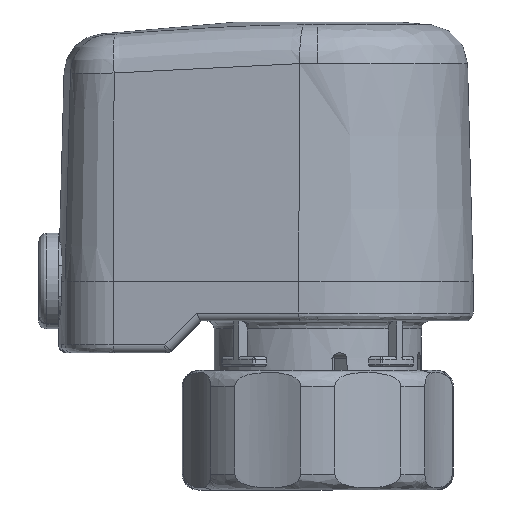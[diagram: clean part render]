
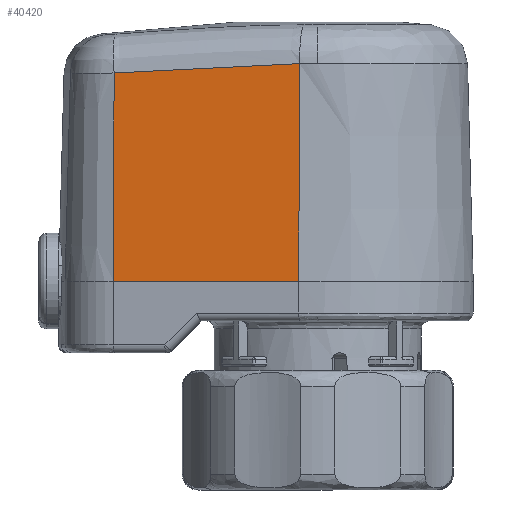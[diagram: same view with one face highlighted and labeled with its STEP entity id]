
A CAD part, front view. The second image highlights one B-rep face of the part: STEP entity #40420.
In plain terms, the highlighted planar face has unit normal (-0.122, -0.992, 0.026).
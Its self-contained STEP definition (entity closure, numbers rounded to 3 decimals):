
#155 = CARTESIAN_POINT ( 'NONE',  ( -21.999, -16.25, 31.371 ) ) ;
#1025 = CARTESIAN_POINT ( 'NONE',  ( -25.31, -15.849, 31.129 ) ) ;
#1587 = DIRECTION ( 'NONE',  ( -0.122, -0.992, 0.026 ) ) ;
#4474 = PLANE ( 'NONE',  #38636 ) ;
#4490 = CARTESIAN_POINT ( 'NONE',  ( -10.379, -17.657, 32.085 ) ) ;
#4756 = DIRECTION ( 'NONE',  ( 0.993, -0.122, 0. ) ) ;
#4774 = CARTESIAN_POINT ( 'NONE',  ( -3.978, -18.438, 32.272 ) ) ;
#5063 = CARTESIAN_POINT ( 'NONE',  ( -22.58, -16.179, 31.328 ) ) ;
#5348 = CARTESIAN_POINT ( 'NONE',  ( -6.889, -18.083, 32.214 ) ) ;
#5728 = EDGE_CURVE ( 'NONE', #38791, #54157, #33832, .T. ) ;
#7576 = CARTESIAN_POINT ( 'NONE',  ( -25.625, -16.5, 5. ) ) ;
#8040 = ORIENTED_EDGE ( 'NONE', *, *, #52574, .T. ) ;
#8062 = CARTESIAN_POINT ( 'NONE',  ( -25.541, -15.822, 31.107 ) ) ;
#8507 = CARTESIAN_POINT ( 'NONE',  ( -15.61, -17.023, 31.803 ) ) ;
#8788 = CARTESIAN_POINT ( 'NONE',  ( -16.191, -16.952, 31.767 ) ) ;
#9089 = CARTESIAN_POINT ( 'NONE',  ( -5.725, -18.225, 32.243 ) ) ;
#9353 = CARTESIAN_POINT ( 'NONE',  ( -24.322, -15.969, 31.2 ) ) ;
#11435 = CARTESIAN_POINT ( 'NONE',  ( -2.289, -18.646, 32.28 ) ) ;
#12793 = CARTESIAN_POINT ( 'NONE',  ( -10.961, -17.587, 32.058 ) ) ;
#13070 = CARTESIAN_POINT ( 'NONE',  ( -24.902, -15.899, 31.154 ) ) ;
#13343 = CARTESIAN_POINT ( 'NONE',  ( -25.522, -15.824, 31.108 ) ) ;
#13922 = CARTESIAN_POINT ( 'NONE',  ( -18.515, -16.671, 31.615 ) ) ;
#14473 = CARTESIAN_POINT ( 'NONE',  ( -2.376, -19.355, 5. ) ) ;
#15044 = DIRECTION ( 'NONE',  ( -0.003, -0.026, -1. ) ) ;
#15240 = ORIENTED_EDGE ( 'NONE', *, *, #35520, .F. ) ;
#16156 = VECTOR ( 'NONE', #15044, 1000. ) ;
#17635 = CARTESIAN_POINT ( 'NONE',  ( -19.096, -16.601, 31.576 ) ) ;
#18202 = CARTESIAN_POINT ( 'NONE',  ( -6.307, -18.154, 32.23 ) ) ;
#18479 = CARTESIAN_POINT ( 'NONE',  ( -19.676, -16.53, 31.536 ) ) ;
#20130 = DIRECTION ( 'NONE',  ( -0.993, 0.122, 0. ) ) ;
#21633 = CARTESIAN_POINT ( 'NONE',  ( -4.561, -18.367, 32.264 ) ) ;
#21910 = CARTESIAN_POINT ( 'NONE',  ( -8.634, -17.87, 32.157 ) ) ;
#21994 = VERTEX_POINT ( 'NONE', #8062 ) ;
#22126 = EDGE_LOOP ( 'NONE', ( #15240, #35419, #29232, #8040 ) ) ;
#22475 = CARTESIAN_POINT ( 'NONE',  ( -12.705, -17.375, 31.97 ) ) ;
#22769 = CARTESIAN_POINT ( 'NONE',  ( -2.307, -18.643, 32.28 ) ) ;
#25912 = CARTESIAN_POINT ( 'NONE',  ( -9.216, -17.799, 32.135 ) ) ;
#26184 = CARTESIAN_POINT ( 'NONE',  ( -9.798, -17.728, 32.111 ) ) ;
#26212 = CARTESIAN_POINT ( 'NONE',  ( -2.376, -19.355, 5. ) ) ;
#26468 = CARTESIAN_POINT ( 'NONE',  ( -7.471, -18.012, 32.197 ) ) ;
#26707 = VERTEX_POINT ( 'NONE', #11435 ) ;
#26745 = CARTESIAN_POINT ( 'NONE',  ( -23.741, -16.039, 31.243 ) ) ;
#29232 = ORIENTED_EDGE ( 'NONE', *, *, #5728, .F. ) ;
#30496 = CARTESIAN_POINT ( 'NONE',  ( -14.448, -17.163, 31.873 ) ) ;
#30784 = CARTESIAN_POINT ( 'NONE',  ( -13.867, -17.234, 31.906 ) ) ;
#31080 = CARTESIAN_POINT ( 'NONE',  ( -17.353, -16.812, 31.692 ) ) ;
#33832 = LINE ( 'NONE', #51503, #44265 ) ;
#34771 = CARTESIAN_POINT ( 'NONE',  ( -3.397, -18.51, 32.277 ) ) ;
#34800 = LINE ( 'NONE', #26212, #49428 ) ;
#35052 = CARTESIAN_POINT ( 'NONE',  ( -12.123, -17.446, 32.001 ) ) ;
#35419 = ORIENTED_EDGE ( 'NONE', *, *, #42046, .T. ) ;
#35520 = EDGE_CURVE ( 'NONE', #21994, #26707, #45879, .T. ) ;
#35604 = CARTESIAN_POINT ( 'NONE',  ( -5.143, -18.296, 32.255 ) ) ;
#35879 = CARTESIAN_POINT ( 'NONE',  ( -21.419, -16.32, 31.413 ) ) ;
#36441 = CARTESIAN_POINT ( 'NONE',  ( -25.625, -16.5, 5. ) ) ;
#36994 = LINE ( 'NONE', #36441, #16156 ) ;
#38636 = AXIS2_PLACEMENT_3D ( 'NONE', #14473, #1587, #4756 ) ;
#38791 = VERTEX_POINT ( 'NONE', #41935 ) ;
#39289 = CARTESIAN_POINT ( 'NONE',  ( -17.934, -16.741, 31.654 ) ) ;
#39856 = CARTESIAN_POINT ( 'NONE',  ( -2.289, -18.646, 32.28 ) ) ;
#40420 = ADVANCED_FACE ( 'NONE', ( #56469 ), #4474, .T. ) ;
#41935 = CARTESIAN_POINT ( 'NONE',  ( -2.376, -19.355, 5. ) ) ;
#42046 = EDGE_CURVE ( 'NONE', #21994, #54157, #36994, .T. ) ;
#43331 = CARTESIAN_POINT ( 'NONE',  ( -2.49, -18.621, 32.28 ) ) ;
#43612 = CARTESIAN_POINT ( 'NONE',  ( -13.286, -17.304, 31.939 ) ) ;
#43643 = DIRECTION ( 'NONE',  ( 0.003, 0.026, 1. ) ) ;
#44174 = CARTESIAN_POINT ( 'NONE',  ( -2.849, -18.577, 32.28 ) ) ;
#44265 = VECTOR ( 'NONE', #20130, 1000. ) ;
#44461 = CARTESIAN_POINT ( 'NONE',  ( -11.542, -17.516, 32.03 ) ) ;
#45879 = B_SPLINE_CURVE_WITH_KNOTS ( 'NONE', 3,
 ( #47356, #13343, #1025, #13070, #9353, #26745, #47905, #5063, #155, #35879, #48761, #52487, #18479, #17635, #13922, #39289, #31080, #52775, #8788, #8507, #48479, #30496, #30784, #43612, #22475, #35052, #44461, #12793, #4490, #26184, #25912, #21910, #48197, #26468, #5348, #18202, #9089, #35604, #21633, #4774, #34771, #44174, #43331, #22769, #39856 ),
 .UNSPECIFIED., .F., .F.,
 ( 4, 1, 1, 1, 1, 1, 1, 1, 1, 1, 1, 1, 1, 1, 1, 1, 1, 1, 1, 1, 1, 1, 1, 1, 1, 1, 1, 1, 1, 1, 1, 1, 1, 1, 1, 1, 1, 1, 1, 1, 1, 1, 4 ),
 ( 0., 0.002, 0.027, 0.052, 0.077, 0.102, 0.127, 0.152, 0.176, 0.201, 0.226, 0.251, 0.276, 0.301, 0.326, 0.351, 0.375, 0.4, 0.425, 0.45, 0.475, 0.5, 0.525, 0.55, 0.575, 0.6, 0.625, 0.65, 0.675, 0.7, 0.725, 0.751, 0.776, 0.801, 0.826, 0.851, 0.876, 0.902, 0.927, 0.952, 0.977, 0.997, 1. ),
 .UNSPECIFIED. ) ;
#47356 = CARTESIAN_POINT ( 'NONE',  ( -25.541, -15.822, 31.107 ) ) ;
#47905 = CARTESIAN_POINT ( 'NONE',  ( -23.161, -16.109, 31.286 ) ) ;
#48197 = CARTESIAN_POINT ( 'NONE',  ( -8.053, -17.941, 32.178 ) ) ;
#48479 = CARTESIAN_POINT ( 'NONE',  ( -15.029, -17.093, 31.838 ) ) ;
#48761 = CARTESIAN_POINT ( 'NONE',  ( -20.838, -16.39, 31.454 ) ) ;
#49428 = VECTOR ( 'NONE', #43643, 1000. ) ;
#51503 = CARTESIAN_POINT ( 'NONE',  ( -2.376, -19.355, 5. ) ) ;
#52487 = CARTESIAN_POINT ( 'NONE',  ( -20.257, -16.46, 31.495 ) ) ;
#52574 = EDGE_CURVE ( 'NONE', #38791, #26707, #34800, .T. ) ;
#52775 = CARTESIAN_POINT ( 'NONE',  ( -16.772, -16.882, 31.73 ) ) ;
#54157 = VERTEX_POINT ( 'NONE', #7576 ) ;
#56469 = FACE_OUTER_BOUND ( 'NONE', #22126, .T. ) ;
